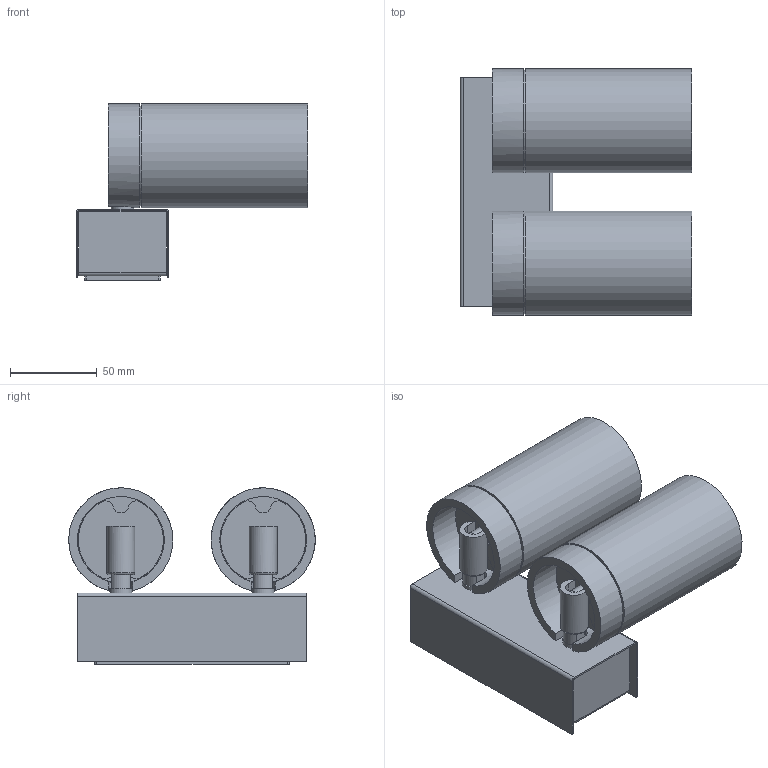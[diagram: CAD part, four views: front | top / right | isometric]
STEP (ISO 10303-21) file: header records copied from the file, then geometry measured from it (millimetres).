
FILE_DESCRIPTION(/* description */ (''),/* implementation_level */ '2;1');
FILE_NAME(/* name */ 'C:\Users\S.Guardiani\Desktop\DOT DE 51.iam.stp',/* time_stamp */ '2022-09-21T11:59:25+02:00',/* author */ ('s.guardiani'),/* organization */ (''),/* preprocessor_version */ 'ST-DEVELOPER v18.1',/* originating_system */ 'Autodesk Inventor 2021',/* authorisation */ '');
FILE_SCHEMA (('AUTOMOTIVE_DESIGN { 1 0 10303 214 3 1 1 }'));
Length unit declared in the file: millimetre
Products named in the file (1): DOT DE 51.iam
Bounding box: 133.55 x 142 x 101.6 mm (x, y, z)
Volume: 232873 mm3; surface area: 212659.6 mm2
Topology: 23 solids, 23 shells, 343 faces, 786 edges, 509 vertices
Faces by surface type: plane 176, cylinder 142, cone 14, torus 7, sphere 4
Full cylindrical faces by diameter (mm): 2.459 x2, 2.5 x1, 4.5 x2, 6.8 x2, 8.917 x5, 10 x1, 13 x2, 16 x3, 25 x2, 50 x4, 51.9 x2, 52 x2, 54 x2, 54.5 x4, 55 x2, 55.835 x2, 57.5 x2, 58 x6, 60 x4
Entity records: 10465 total; most frequent: CARTESIAN_POINT 1925, DIRECTION 1762, ORIENTED_EDGE 1564, EDGE_CURVE 782, AXIS2_PLACEMENT_3D 670, VERTEX_POINT 509, LINE 422, VECTOR 422
